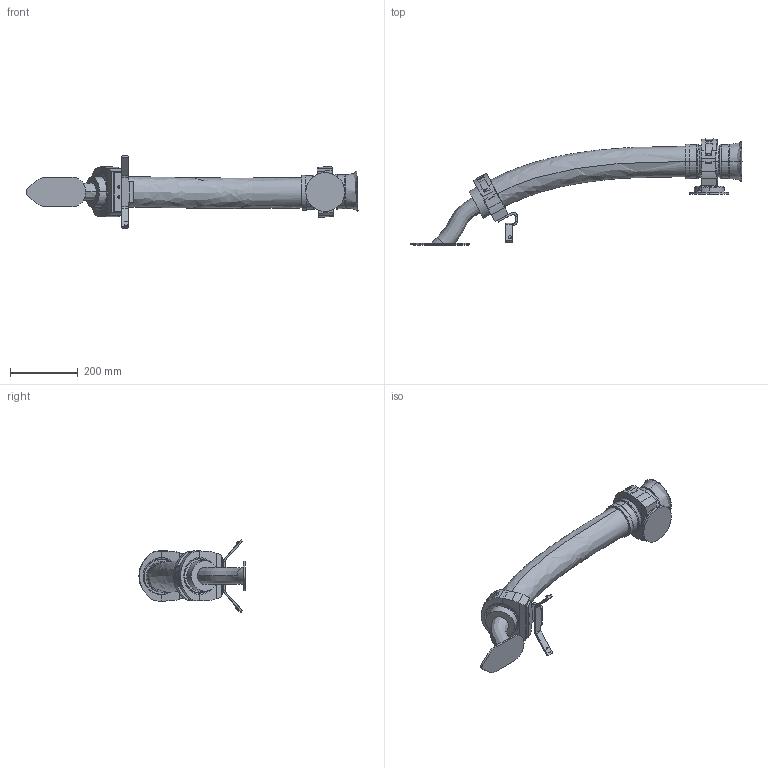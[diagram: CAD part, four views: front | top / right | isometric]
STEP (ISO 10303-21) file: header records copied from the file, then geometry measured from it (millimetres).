
FILE_DESCRIPTION (( 'STEP AP214' ), '1' );
FILE_NAME ('IRB7720-LID_All-290_OC_01_LINK04_CABLE.step', '2026-01-28T12:32:54', ( '' ), ( '' ), 'SwSTEP 2.0', 'SolidWorks 2024', '' );
FILE_SCHEMA (( 'AUTOMOTIVE_DESIGN' ));
Length unit declared in the file: millimetre
Products named in the file (1): IRB7720-LID_All-290_OC_01_LINK04_CABLE
Bounding box: 981.81 x 313.49 x 213.34 mm (x, y, z)
Volume: 6891440.1 mm3; surface area: 435046.3 mm2
Topology: 1 solids, 2 shells, 391 faces, 981 edges, 624 vertices
Faces by surface type: plane 201, cylinder 130, sphere 24, cone 20, bspline 14, torus 2
Entity records: 19912 total; most frequent: CARTESIAN_POINT 6272, ORIENTED_EDGE 1956, DIRECTION 1953, EDGE_CURVE 978, AXIS2_PLACEMENT_3D 734, VERTEX_POINT 623, LINE 485, VECTOR 485
